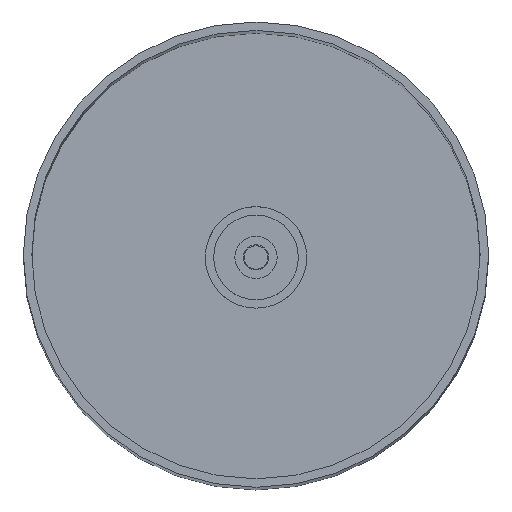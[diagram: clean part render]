
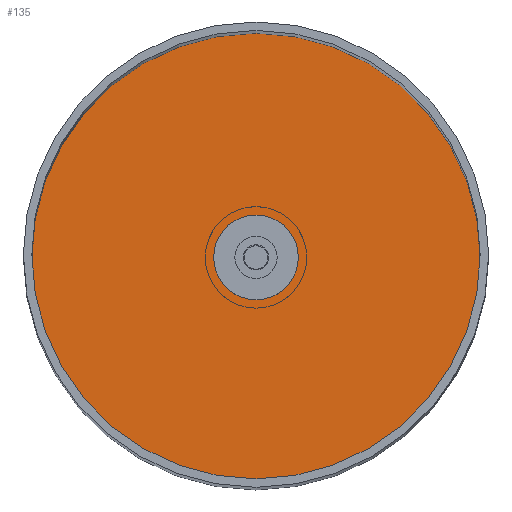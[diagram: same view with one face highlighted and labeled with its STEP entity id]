
A CAD part, top view. The second image highlights one B-rep face of the part: STEP entity #135.
In plain terms, the highlighted planar face has unit normal (0, 0, 1).
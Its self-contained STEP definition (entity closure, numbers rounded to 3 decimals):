
#113=FACE_BOUND('',#325,.T.);
#135=ADVANCED_FACE('',(#228,#113),#1950,.T.);
#228=FACE_OUTER_BOUND('',#324,.T.);
#324=EDGE_LOOP('',(#465,#466));
#325=EDGE_LOOP('',(#467,#468));
#465=ORIENTED_EDGE('',*,*,#926,.T.);
#466=ORIENTED_EDGE('',*,*,#904,.T.);
#467=ORIENTED_EDGE('',*,*,#928,.T.);
#468=ORIENTED_EDGE('',*,*,#900,.T.);
#900=EDGE_CURVE('',#1676,#1674,#1227,.T.);
#904=EDGE_CURVE('',#1680,#1678,#1229,.T.);
#926=EDGE_CURVE('',#1678,#1680,#1244,.T.);
#928=EDGE_CURVE('',#1674,#1676,#1246,.T.);
#1227=TRIMMED_CURVE($,#1356,(#2944),(#2945),.T.,.CARTESIAN.);
#1229=TRIMMED_CURVE($,#1358,(#2954),(#2955),.T.,.CARTESIAN.);
#1244=TRIMMED_CURVE($,#1373,(#3013),(#3014),.T.,.CARTESIAN.);
#1246=TRIMMED_CURVE($,#1375,(#3019),(#3020),.T.,.CARTESIAN.);
#1356=CIRCLE('',#2320,5.);
#1358=CIRCLE('',#2322,26.5);
#1373=CIRCLE('',#2337,26.5);
#1375=CIRCLE('',#2339,5.);
#1674=VERTEX_POINT('',#2911);
#1676=VERTEX_POINT('',#2913);
#1678=VERTEX_POINT('',#2915);
#1680=VERTEX_POINT('',#2917);
#1950=PLANE('',#2313);
#2313=AXIS2_PLACEMENT_3D('',#2902,#2540,$);
#2320=AXIS2_PLACEMENT_3D($,#2943,#2549,#2550);
#2322=AXIS2_PLACEMENT_3D($,#2953,#2553,#2554);
#2337=AXIS2_PLACEMENT_3D($,#3012,#2583,#2584);
#2339=AXIS2_PLACEMENT_3D($,#3018,#2587,#2588);
#2540=DIRECTION('',(0.,0.,1.));
#2549=DIRECTION('',(0.,0.,-1.));
#2550=DIRECTION('',(1.,0.,0.));
#2553=DIRECTION('',(0.,0.,1.));
#2554=DIRECTION('',(-1.,0.,0.));
#2583=DIRECTION('',(0.,0.,1.));
#2584=DIRECTION('',(1.,0.,0.));
#2587=DIRECTION('',(0.,0.,-1.));
#2588=DIRECTION('',(-1.,0.,0.));
#2902=CARTESIAN_POINT('',(-31.829,-31.767,927.75));
#2911=CARTESIAN_POINT('',(-5.029,0.033,927.75));
#2913=CARTESIAN_POINT('',(4.971,0.033,927.75));
#2915=CARTESIAN_POINT('',(26.471,0.033,927.75));
#2917=CARTESIAN_POINT('',(-26.529,0.033,927.75));
#2943=CARTESIAN_POINT('',(-0.029,0.033,927.75));
#2944=CARTESIAN_POINT('',(4.971,0.033,927.75));
#2945=CARTESIAN_POINT('',(-5.029,0.033,927.75));
#2953=CARTESIAN_POINT('',(-0.029,0.033,927.75));
#2954=CARTESIAN_POINT('',(-26.529,0.033,927.75));
#2955=CARTESIAN_POINT('',(26.471,0.033,927.75));
#3012=CARTESIAN_POINT('',(-0.029,0.033,927.75));
#3013=CARTESIAN_POINT('',(26.471,0.033,927.75));
#3014=CARTESIAN_POINT('',(-26.529,0.033,927.75));
#3018=CARTESIAN_POINT('',(-0.029,0.033,927.75));
#3019=CARTESIAN_POINT('',(-5.029,0.033,927.75));
#3020=CARTESIAN_POINT('',(4.971,0.033,927.75));
